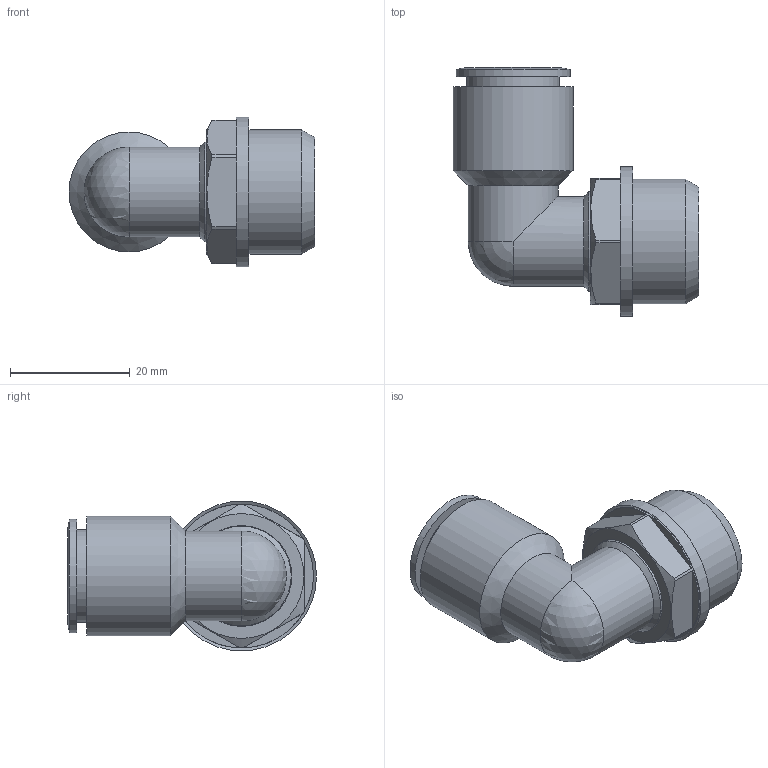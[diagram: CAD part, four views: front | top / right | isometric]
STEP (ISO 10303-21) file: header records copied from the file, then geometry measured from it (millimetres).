
FILE_DESCRIPTION((''),'2;1');
FILE_NAME('C:\Documents and Settings\rivolro1\Documenti\copia di Raccordi\PLASTICA\T22XXXX\T221212.stp','2007-11-02T14:27:46',('Rivolro1'),(''),'Autodesk Inventor 2008','Autodesk Inventor 2008','');
FILE_SCHEMA(('AUTOMOTIVE_DESIGN { 1 0 10303 214 1 1 1 1 }'));
Length unit declared in the file: millimetre
Products named in the file (1): T221212
Bounding box: 41 x 41.5 x 25 mm (x, y, z)
Volume: 10604.1 mm3; surface area: 6788.5 mm2
Topology: 1 solids, 1 shells, 44 faces, 104 edges, 64 vertices
Faces by surface type: plane 20, cylinder 13, cone 6, bspline 4, sphere 1
Full cylindrical faces by diameter (mm): 10 x1, 10.3 x1, 15 x2, 15.5 x1, 16.6 x1, 16.8 x1, 19 x1, 20 x1, 20.7 x1, 24 x1, 25 x1
Entity records: 1312 total; most frequent: CARTESIAN_POINT 343, DIRECTION 194, ORIENTED_EDGE 150, AXIS2_PLACEMENT_3D 86, EDGE_CURVE 75, EDGE_LOOP 71, VERTEX_POINT 58, FACE_OUTER_BOUND 44
